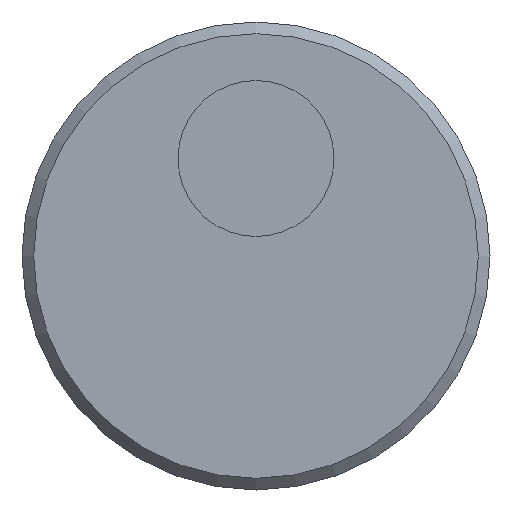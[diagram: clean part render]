
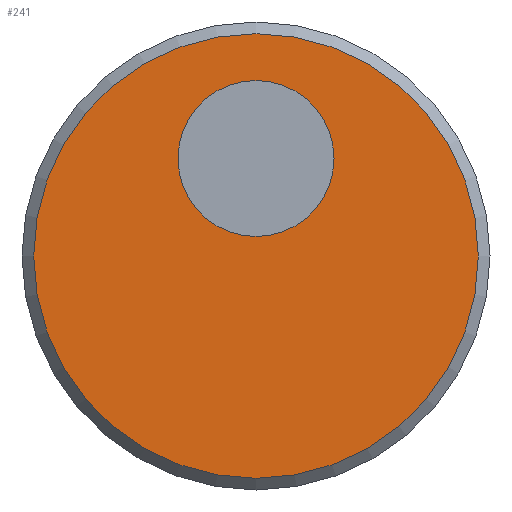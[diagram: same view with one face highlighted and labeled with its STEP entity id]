
A CAD part, left-side view. The second image highlights one B-rep face of the part: STEP entity #241.
In plain terms, the highlighted planar face has unit normal (-1, 0, 0).
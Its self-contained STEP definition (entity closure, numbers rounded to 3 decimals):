
#84=CARTESIAN_POINT('',(-20.714,-1.051,4.5));
#85=VERTEX_POINT('',#84);
#86=CARTESIAN_POINT('',(-20.714,-1.051,2.5));
#87=DIRECTION('',(1.0,0.0,0.0));
#88=DIRECTION('',(0.0,0.0,-1.0));
#89=AXIS2_PLACEMENT_3D('',#86,#87,#88);
#90=CIRCLE('',#89,2.0);
#91=EDGE_CURVE('',#85,#85,#90,.T.);
#222=CARTESIAN_POINT('',(-20.714,1.799,0.0));
#223=DIRECTION('',(-1.0,0.0,0.0));
#224=DIRECTION('',(0.0,0.0,1.0));
#225=AXIS2_PLACEMENT_3D('',#222,#223,#224);
#226=PLANE('',#225);
#227=CARTESIAN_POINT('',(-20.714,4.649,0.0));
#228=VERTEX_POINT('',#227);
#229=CARTESIAN_POINT('',(-20.714,-1.051,0.0));
#230=DIRECTION('',(1.0,0.0,0.0));
#231=DIRECTION('',(0.0,1.0,0.0));
#232=AXIS2_PLACEMENT_3D('',#229,#230,#231);
#233=CIRCLE('',#232,5.7);
#234=EDGE_CURVE('',#228,#228,#233,.T.);
#235=ORIENTED_EDGE('',*,*,#234,.F.);
#236=EDGE_LOOP('',(#235));
#237=FACE_OUTER_BOUND('',#236,.T.);
#238=ORIENTED_EDGE('',*,*,#91,.T.);
#239=EDGE_LOOP('',(#238));
#240=FACE_BOUND('',#239,.T.);
#241=ADVANCED_FACE('',(#237,#240),#226,.T.);
